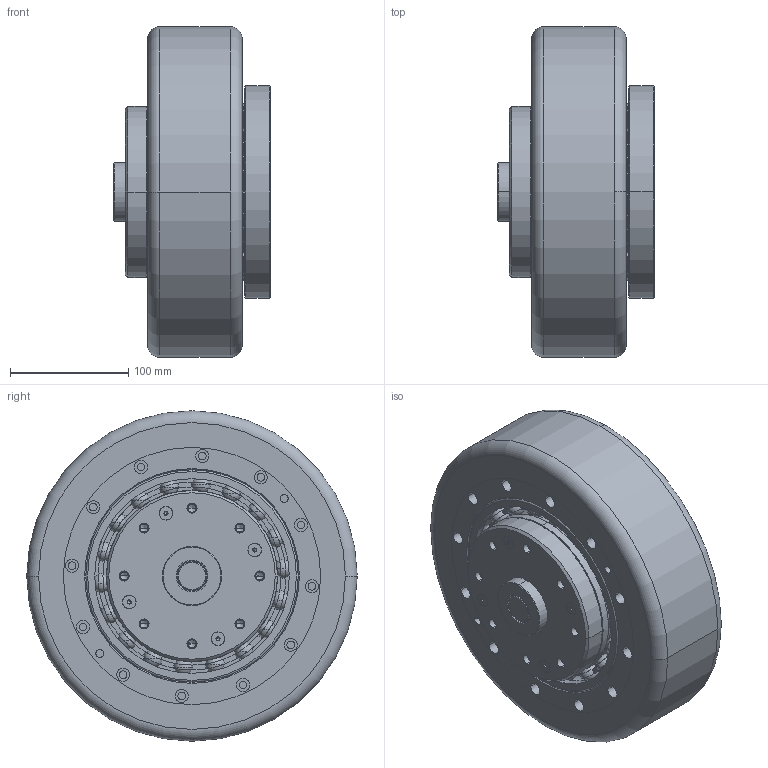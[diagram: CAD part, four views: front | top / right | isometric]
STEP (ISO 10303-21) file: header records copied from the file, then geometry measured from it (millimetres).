
FILE_DESCRIPTION (( 'STEP AP214' ), '1' );
FILE_NAME ('TYC280.STEP', '2022-04-20T08:46:42', ( '' ), ( '' ), 'SwSTEP 2.0', 'SolidWorks 2018', '' );
FILE_SCHEMA (( 'AUTOMOTIVE_DESIGN' ));
Length unit declared in the file: millimetre
Products named in the file (1): TYC280
Bounding box: 133 x 280 x 280 mm (x, y, z)
Volume: 5578813.8 mm3; surface area: 436816.7 mm2
Topology: 4 solids, 4 shells, 1128 faces, 3378 edges, 2232 vertices
Faces by surface type: cylinder 354, plane 282, sphere 188, torus 160, cone 122, bspline 22
Entity records: 50741 total; most frequent: CARTESIAN_POINT 21993, ORIENTED_EDGE 6186, DIRECTION 5881, EDGE_CURVE 3093, AXIS2_PLACEMENT_3D 2581, VERTEX_POINT 2058, CIRCLE 1474, EDGE_LOOP 1423
